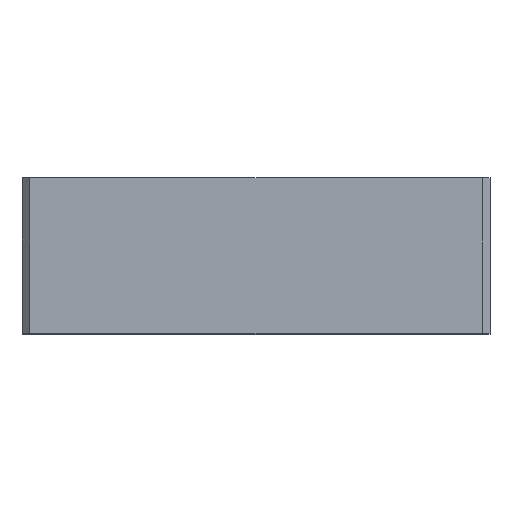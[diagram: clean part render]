
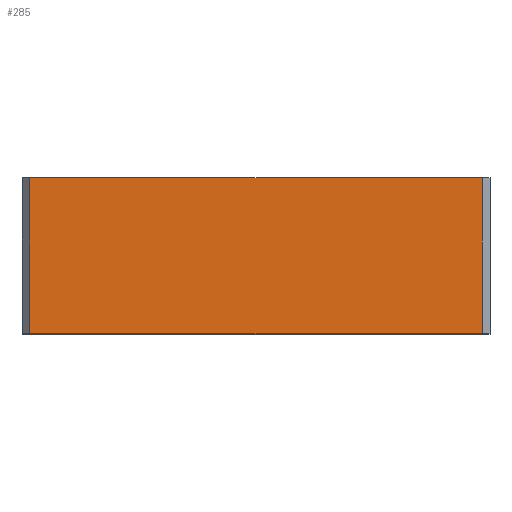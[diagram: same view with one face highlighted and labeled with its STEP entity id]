
A CAD part, top view. The second image highlights one B-rep face of the part: STEP entity #285.
In plain terms, the highlighted planar face has unit normal (0, 0, 1).
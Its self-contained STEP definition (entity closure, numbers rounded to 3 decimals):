
#18 = CARTESIAN_POINT ( 'NONE',  ( -29., 20., 30. ) ) ;
#111 = CARTESIAN_POINT ( 'NONE',  ( -30., 0., 30. ) ) ;
#115 = LINE ( 'NONE', #18, #1005 ) ;
#223 = CARTESIAN_POINT ( 'NONE',  ( 29., 20., 30. ) ) ;
#233 = DIRECTION ( 'NONE',  ( 1., 0., 0. ) ) ;
#269 = CARTESIAN_POINT ( 'NONE',  ( -30., 20., 30. ) ) ;
#285 = ADVANCED_FACE ( 'NONE', ( #851 ), #563, .F. ) ;
#388 = LINE ( 'NONE', #111, #1295 ) ;
#417 = VERTEX_POINT ( 'NONE', #608 ) ;
#433 = ORIENTED_EDGE ( 'NONE', *, *, #1079, .T. ) ;
#531 = CARTESIAN_POINT ( 'NONE',  ( -29., 0., 30. ) ) ;
#536 = DIRECTION ( 'NONE',  ( 0., 1., 0. ) ) ;
#552 = VECTOR ( 'NONE', #536, 1000. ) ;
#563 = PLANE ( 'NONE',  #1364 ) ;
#588 = DIRECTION ( 'NONE',  ( 0., -1., 0. ) ) ;
#608 = CARTESIAN_POINT ( 'NONE',  ( 29., 0., 30. ) ) ;
#618 = VERTEX_POINT ( 'NONE', #531 ) ;
#652 = CARTESIAN_POINT ( 'NONE',  ( -30., 20., 30. ) ) ;
#714 = EDGE_CURVE ( 'NONE', #618, #417, #388, .T. ) ;
#773 = DIRECTION ( 'NONE',  ( 1., 0., 0. ) ) ;
#843 = EDGE_CURVE ( 'NONE', #1045, #618, #115, .T. ) ;
#851 = FACE_OUTER_BOUND ( 'NONE', #1235, .T. ) ;
#857 = CARTESIAN_POINT ( 'NONE',  ( -29., 20., 30. ) ) ;
#912 = ORIENTED_EDGE ( 'NONE', *, *, #1072, .F. ) ;
#1005 = VECTOR ( 'NONE', #588, 1000. ) ;
#1033 = DIRECTION ( 'NONE',  ( 0., 0., -1. ) ) ;
#1045 = VERTEX_POINT ( 'NONE', #857 ) ;
#1065 = VERTEX_POINT ( 'NONE', #1082 ) ;
#1072 = EDGE_CURVE ( 'NONE', #1045, #1065, #1222, .T. ) ;
#1079 = EDGE_CURVE ( 'NONE', #417, #1065, #1366, .T. ) ;
#1082 = CARTESIAN_POINT ( 'NONE',  ( 29., 20., 30. ) ) ;
#1103 = ORIENTED_EDGE ( 'NONE', *, *, #714, .T. ) ;
#1222 = LINE ( 'NONE', #652, #1279 ) ;
#1235 = EDGE_LOOP ( 'NONE', ( #1103, #433, #912, #1314 ) ) ;
#1279 = VECTOR ( 'NONE', #773, 1000. ) ;
#1295 = VECTOR ( 'NONE', #233, 1000. ) ;
#1314 = ORIENTED_EDGE ( 'NONE', *, *, #843, .T. ) ;
#1337 = DIRECTION ( 'NONE',  ( -1., 0., 0. ) ) ;
#1364 = AXIS2_PLACEMENT_3D ( 'NONE', #269, #1033, #1337 ) ;
#1366 = LINE ( 'NONE', #223, #552 ) ;
